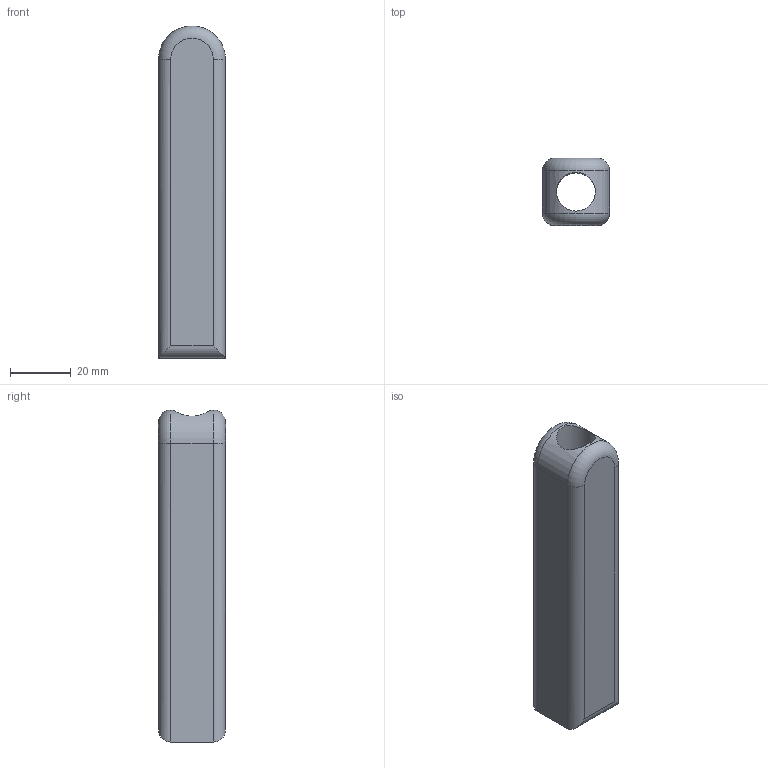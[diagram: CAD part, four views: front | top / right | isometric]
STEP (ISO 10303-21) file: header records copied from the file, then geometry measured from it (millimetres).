
FILE_DESCRIPTION(/* description */ (''),/* implementation_level */ '2;1');
FILE_NAME(/* name */ 'C:/Users/Owner/Desktop/K-CAD Songbird PM4 Centerfire/STEP/Barrels/Barrel Type 1/Barrel Type 1 .5 inch ID.step',/* time_stamp */ '2020-12-05T21:54:04-05:00',/* author */ (''),/* organization */ (''),/* preprocessor_version */ 'ST-DEVELOPER v18.1',/* originating_system */ 'Autodesk Translation Framework v9.3.0.1241',/* authorisation */ '');
FILE_SCHEMA (('AUTOMOTIVE_DESIGN { 1 0 10303 214 3 1 1 }'));
Length unit declared in the file: inch
Products named in the file (1): Barrel Type 1 .5 inch ID
Bounding box: 22 x 22 x 109 mm (x, y, z)
Volume: 36176.4 mm3; surface area: 13415.3 mm2
Topology: 1 solids, 1 shells, 15 faces, 31 edges, 18 vertices
Faces by surface type: cylinder 8, plane 5, torus 2
Full cylindrical faces by diameter (mm): 12.7 x1
Entity records: 471 total; most frequent: CARTESIAN_POINT 98, DIRECTION 75, ORIENTED_EDGE 62, EDGE_CURVE 31, AXIS2_PLACEMENT_3D 29, VERTEX_POINT 18, EDGE_LOOP 17, LINE 17
